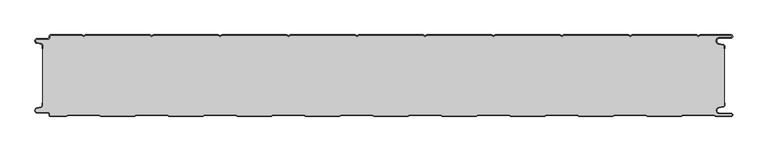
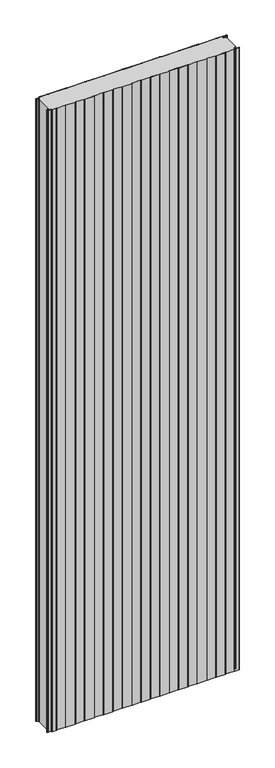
"""IFC4 building model written with IfcOpenShell, lengths in millimetres: plate geometry, PMH_Curtain-PaneL-Standard : ACH_PMH_Stone-wool-Panel_120M."""

from ifc_helpers import new_model, si_unit, point, frame_2d, origin, origin_with_axes, place, context, project, spatial, polyline, circle_curve, trimmed, segment, composite_curve, outline, extrude, source, transform, mapped, element, save


def plate_37207b8e(model_context):
    return source(origin(), model_context, "Body", "SweptSolid", [
        extrude(outline(composite_curve([segment(trimmed(circle_curve(frame_2d((-502.0, -15.878557)), 2.0), [point((-500.0, -15.878557))], [point((-501.5500978, -13.9298169))], True, "CARTESIAN"), True, "CONTINUOUS"), segment(polyline([(-501.5500978, -13.9298169), (-507.7098239, -12.507732)]), True, "CONTINUOUS"), segment(trimmed(circle_curve(frame_2d((-506.9, -9.0)), 3.6), [point((-507.7098239, -12.507732))], [point((-506.9, -5.4))], False, "CARTESIAN"), True, "CONTINUOUS"), segment(polyline([(-506.9, -5.4), (-491.4, -5.4)]), True, "CONTINUOUS"), segment(trimmed(circle_curve(frame_2d((-491.4, -3.4)), 2.0), [point((-491.4, -5.4))], [point((-489.4, -3.4))], True, "CARTESIAN"), True, "CONTINUOUS"), segment(polyline([(-489.4, -3.4), (-489.4, -2.0)]), True, "CONTINUOUS"), segment(trimmed(circle_curve(frame_2d((-487.4, -2.0)), 2.0), [point((-489.4, -2.0))], [point((-487.4, 0.0))], False, "CARTESIAN"), True, "CONTINUOUS"), segment(polyline([(-487.4, 0.0), (-442.0999995, 0.0), (-439.4, -1.5588455), (-436.7000005, 0.0), (-342.0999995, 0.0), (-339.4, -1.5588455), (-336.7000005, 0.0), (-242.0999995, 0.0), (-239.4, -1.5588455), (-236.7000005, 0.0), (-142.0999995, 0.0), (-139.4, -1.5588455), (-136.7000005, 0.0), (-42.0999995, 0.0), (-39.4, -1.5588455), (-36.7000005, 0.0), (57.9000005, 0.0), (60.6, -1.5588455), (63.2999995, 0.0), (157.9000005, 0.0), (160.6, -1.5588455), (163.2999995, 0.0), (257.9000005, 0.0), (260.6, -1.5588455), (263.2999995, 0.0), (357.9000005, 0.0), (360.6, -1.5588455), (363.2999995, 0.0), (457.9000005, 0.0), (460.6, -1.5588455), (463.2999995, 0.0), (508.1, 0.0)]), True, "CONTINUOUS"), segment(trimmed(circle_curve(frame_2d((508.1, -2.5)), 2.5), [point((508.1, 0.0))], [point((508.1, -5.0))], False, "CARTESIAN"), True, "CONTINUOUS"), segment(polyline([(508.1, -5.0), (491.1, -5.0)]), True, "CONTINUOUS"), segment(trimmed(circle_curve(frame_2d((491.1, -9.0)), 4.0), [point((491.1, -5.0))], [point((490.405407, -12.939231))], True, "CARTESIAN"), True, "CONTINUOUS"), segment(polyline([(490.405407, -12.939231), (496.8514855, -14.0758491)]), True, "CONTINUOUS"), segment(trimmed(circle_curve(frame_2d((496.4, -16.6363492)), 2.6), [point((496.8514855, -14.0758491))], [point((499.0, -16.6363492))], False, "CARTESIAN"), True, "CONTINUOUS"), segment(polyline([(499.0, -16.6363492), (499.0, -20.0), (498.2, -20.0), (498.2, -16.6363492)]), True, "CONTINUOUS"), segment(trimmed(circle_curve(frame_2d((496.4, -16.6363492)), 1.8), [point((498.2, -16.6363492))], [point((496.7125669, -14.8636953))], True, "CARTESIAN"), True, "CONTINUOUS"), segment(polyline([(496.7125669, -14.8636953), (490.2664884, -13.7270772)]), True, "CONTINUOUS"), segment(trimmed(circle_curve(frame_2d((491.1, -9.0)), 4.8), [point((490.2664884, -13.7270772))], [point((491.1, -4.2))], False, "CARTESIAN"), True, "CONTINUOUS"), segment(polyline([(491.1, -4.2), (508.1, -4.2)]), True, "CONTINUOUS"), segment(trimmed(circle_curve(frame_2d((508.1, -2.5)), 1.7), [point((508.1, -4.2))], [point((508.1, -0.8))], True, "CARTESIAN"), True, "CONTINUOUS"), segment(polyline([(508.1, -0.8), (463.5143588, -0.8), (460.6, -2.482606), (457.6856412, -0.8), (363.5143588, -0.8), (360.6, -2.482606), (357.6856412, -0.8), (263.5143588, -0.8), (260.6, -2.482606), (257.6856412, -0.8), (163.5143588, -0.8), (160.6, -2.482606), (157.6856412, -0.8), (63.5143588, -0.8), (60.6, -2.482606), (57.6856412, -0.8), (-36.4856412, -0.8), (-39.4, -2.482606), (-42.3143588, -0.8), (-136.4856412, -0.8), (-139.4, -2.482606), (-142.3143588, -0.8), (-236.4856412, -0.8), (-239.4, -2.482606), (-242.3143588, -0.8), (-336.4856412, -0.8), (-339.4, -2.482606), (-342.3143588, -0.8), (-436.4856412, -0.8), (-439.4, -2.482606), (-442.3143588, -0.8), (-487.4, -0.8)]), True, "CONTINUOUS"), segment(trimmed(circle_curve(frame_2d((-487.4, -2.0)), 1.2), [point((-487.4, -0.8))], [point((-488.6, -2.0))], True, "CARTESIAN"), True, "CONTINUOUS"), segment(polyline([(-488.6, -2.0), (-488.6, -3.4)]), True, "CONTINUOUS"), segment(trimmed(circle_curve(frame_2d((-491.4, -3.4)), 2.8), [point((-488.6, -3.4))], [point((-491.4, -6.2))], False, "CARTESIAN"), True, "CONTINUOUS"), segment(polyline([(-491.4, -6.2), (-506.9, -6.2)]), True, "CONTINUOUS"), segment(trimmed(circle_curve(frame_2d((-506.9, -9.0)), 2.8), [point((-506.9, -6.2))], [point((-507.529863, -11.7282362))], True, "CARTESIAN"), True, "CONTINUOUS"), segment(polyline([(-507.529863, -11.7282362), (-501.370137, -13.150321)]), True, "CONTINUOUS"), segment(trimmed(circle_curve(frame_2d((-502.0, -15.878557)), 2.8), [point((-501.370137, -13.150321))], [point((-499.2, -15.878557))], False, "CARTESIAN"), True, "CONTINUOUS"), segment(polyline([(-499.2, -15.878557), (-499.2, -20.0), (-500.0, -20.0), (-500.0, -15.878557)]), True, "CONTINUOUS")], self_intersect=False)), origin_with_axes(), (0.0, 0.0, 1.0), 3500.0),
        extrude(outline(composite_curve([segment(polyline([(-499.2, -104.121443), (-499.2, -15.8785573)]), True, "CONTINUOUS"), segment(trimmed(circle_curve(frame_2d((-502.0, -15.8785573)), 2.8), [point((-499.2, -15.8785573))], [point((-501.370137, -13.1503212))], True, "CARTESIAN"), True, "CONTINUOUS"), segment(polyline([(-501.370137, -13.1503212), (-507.5298631, -11.7282362)]), True, "CONTINUOUS"), segment(trimmed(circle_curve(frame_2d((-506.9, -9.0)), 2.8), [point((-507.5298631, -11.7282362))], [point((-506.9, -6.2))], False, "CARTESIAN"), True, "CONTINUOUS"), segment(polyline([(-506.9, -6.2), (-491.4000001, -6.2)]), True, "CONTINUOUS"), segment(trimmed(circle_curve(frame_2d((-491.4000001, -3.4)), 2.8), [point((-491.4000001, -6.2))], [point((-488.6000001, -3.4))], True, "CARTESIAN"), True, "CONTINUOUS"), segment(polyline([(-488.6000001, -3.4), (-488.6000001, -2.0)]), True, "CONTINUOUS"), segment(trimmed(circle_curve(frame_2d((-487.4000001, -2.0)), 1.2), [point((-488.6000001, -2.0))], [point((-487.4000001, -0.8))], False, "CARTESIAN"), True, "CONTINUOUS"), segment(polyline([(-487.4000001, -0.8), (-442.3143589, -0.8), (-439.4000001, -2.482606), (-436.4856412, -0.8), (-342.3143589, -0.8), (-339.4000001, -2.482606), (-336.4856412, -0.8), (-242.3143589, -0.8), (-239.4000001, -2.482606), (-236.4856412, -0.8), (-142.3143589, -0.8), (-139.4000001, -2.482606), (-136.4856412, -0.8), (-42.3143589, -0.8), (-39.4000001, -2.482606), (-36.4856412, -0.8), (57.6856411, -0.8), (60.5999999, -2.482606), (63.5143588, -0.8), (157.6856411, -0.8), (160.5999999, -2.482606), (163.5143588, -0.8), (257.6856411, -0.8), (260.5999999, -2.482606), (263.5143588, -0.8), (357.6856411, -0.8), (360.5999999, -2.482606), (363.5143588, -0.8), (457.6856411, -0.8), (460.5999999, -2.482606), (463.5143587, -0.8), (508.1, -0.8)]), True, "CONTINUOUS"), segment(trimmed(circle_curve(frame_2d((508.1, -2.5)), 1.7), [point((508.1, -0.8))], [point((508.1, -4.2))], False, "CARTESIAN"), True, "CONTINUOUS"), segment(polyline([(508.1, -4.2), (491.1, -4.2)]), True, "CONTINUOUS"), segment(trimmed(circle_curve(frame_2d((491.1, -9.0)), 4.8), [point((491.1, -4.2))], [point((490.2664883, -13.7270771))], True, "CARTESIAN"), True, "CONTINUOUS"), segment(polyline([(490.2664883, -13.7270771), (496.7125668, -14.8636953)]), True, "CONTINUOUS"), segment(trimmed(circle_curve(frame_2d((496.4, -16.6363492)), 1.8), [point((496.7125668, -14.8636953))], [point((498.2, -16.6363492))], False, "CARTESIAN"), True, "CONTINUOUS"), segment(polyline([(498.2, -16.6363492), (498.2, -103.363652)]), True, "CONTINUOUS"), segment(trimmed(circle_curve(frame_2d((496.4, -103.363652)), 1.8), [point((498.2, -103.363652))], [point((496.7125666, -105.1363059))], False, "CARTESIAN"), True, "CONTINUOUS"), segment(polyline([(496.7125666, -105.1363059), (490.266489, -106.272923)]), True, "CONTINUOUS"), segment(trimmed(circle_curve(frame_2d((491.1, -111.0000002)), 4.7999999), [point((490.266489, -106.272923))], [point((491.1, -115.8000001))], True, "CARTESIAN"), True, "CONTINUOUS"), segment(polyline([(491.1, -115.8000001), (508.1, -115.8000001)]), True, "CONTINUOUS"), segment(trimmed(circle_curve(frame_2d((508.1, -117.5)), 1.7), [point((508.1, -115.8000001))], [point((508.1, -119.2))], False, "CARTESIAN"), True, "CONTINUOUS"), segment(polyline([(508.1, -119.2), (485.8105122, -119.2), (483.2124346, -117.7), (437.9837184, -117.7), (435.3856408, -119.2), (385.8105122, -119.2), (383.2124346, -117.7), (337.9837184, -117.7), (335.3856408, -119.2), (285.8105122, -119.2), (283.2124346, -117.7), (237.9837184, -117.7), (235.3856408, -119.2), (185.8105122, -119.2), (183.2124346, -117.7), (137.9837184, -117.7), (135.3856408, -119.2), (85.8105122, -119.2), (83.2124346, -117.7), (37.9837184, -117.7), (35.3856408, -119.2), (-14.1894878, -119.2), (-16.7875654, -117.7), (-62.0162816, -117.7), (-64.6143592, -119.2), (-114.1894878, -119.2), (-116.7875654, -117.7), (-162.0162816, -117.7), (-164.6143592, -119.2), (-214.1894878, -119.2), (-216.7875654, -117.7), (-262.0162816, -117.7), (-264.6143592, -119.2), (-314.1894878, -119.2), (-316.7875654, -117.7), (-362.0162816, -117.7), (-364.6143592, -119.2), (-414.1894878, -119.2), (-416.7875654, -117.7), (-462.0162816, -117.7), (-464.6143592, -119.2), (-487.4, -119.2)]), True, "CONTINUOUS"), segment(trimmed(circle_curve(frame_2d((-487.4, -118.0)), 1.2), [point((-487.4, -119.2))], [point((-488.6, -118.0))], False, "CARTESIAN"), True, "CONTINUOUS"), segment(polyline([(-488.6, -118.0), (-488.6, -116.5999998)]), True, "CONTINUOUS"), segment(trimmed(circle_curve(frame_2d((-491.4, -116.5999998)), 2.8), [point((-488.6, -116.5999998))], [point((-491.4, -113.7999998))], True, "CARTESIAN"), True, "CONTINUOUS"), segment(polyline([(-491.4, -113.7999998), (-506.9, -113.7999998)]), True, "CONTINUOUS"), segment(trimmed(circle_curve(frame_2d((-506.9, -111.0)), 2.7999998), [point((-506.9, -113.7999998))], [point((-507.529863, -108.271764))], False, "CARTESIAN"), True, "CONTINUOUS"), segment(polyline([(-507.529863, -108.271764), (-501.370137, -106.8496792)]), True, "CONTINUOUS"), segment(trimmed(circle_curve(frame_2d((-502.0, -104.121443)), 2.8), [point((-501.370137, -106.8496792))], [point((-499.2, -104.121443))], True, "CARTESIAN"), True, "CONTINUOUS")], self_intersect=False)), origin_with_axes(), (0.0, 0.0, 1.0), 3500.0),
        extrude(outline(composite_curve([segment(trimmed(circle_curve(frame_2d((-487.4, -118.0)), 2.0), [point((-487.4, -120.0))], [point((-489.4, -118.0))], False, "CARTESIAN"), True, "CONTINUOUS"), segment(polyline([(-489.4, -118.0), (-489.4, -116.6)]), True, "CONTINUOUS"), segment(trimmed(circle_curve(frame_2d((-491.4, -116.6)), 2.0), [point((-489.4, -116.6))], [point((-491.4, -114.6))], True, "CARTESIAN"), True, "CONTINUOUS"), segment(polyline([(-491.4, -114.6), (-506.9, -114.6)]), True, "CONTINUOUS"), segment(trimmed(circle_curve(frame_2d((-506.9, -111.0)), 3.6), [point((-506.9, -114.6))], [point((-507.7098239, -107.4922678))], False, "CARTESIAN"), True, "CONTINUOUS"), segment(polyline([(-507.7098239, -107.4922678), (-501.5500979, -106.070183)]), True, "CONTINUOUS"), segment(trimmed(circle_curve(frame_2d((-502.0, -104.121443)), 2.0), [point((-501.5500979, -106.070183))], [point((-500.0, -104.121443))], True, "CARTESIAN"), True, "CONTINUOUS"), segment(polyline([(-500.0, -104.121443), (-500.0, -100.0), (-499.2, -100.0), (-499.2, -104.121443)]), True, "CONTINUOUS"), segment(trimmed(circle_curve(frame_2d((-502.0, -104.121443)), 2.8), [point((-499.2, -104.121443))], [point((-501.370137, -106.8496792))], False, "CARTESIAN"), True, "CONTINUOUS"), segment(polyline([(-501.370137, -106.8496792), (-507.529863, -108.271764)]), True, "CONTINUOUS"), segment(trimmed(circle_curve(frame_2d((-506.9, -111.0)), 2.8), [point((-507.529863, -108.271764))], [point((-506.9, -113.8))], True, "CARTESIAN"), True, "CONTINUOUS"), segment(polyline([(-506.9, -113.8), (-491.4, -113.8)]), True, "CONTINUOUS"), segment(trimmed(circle_curve(frame_2d((-491.4, -116.6)), 2.8), [point((-491.4, -113.8))], [point((-488.6, -116.6))], False, "CARTESIAN"), True, "CONTINUOUS"), segment(polyline([(-488.6, -116.6), (-488.6, -118.0)]), True, "CONTINUOUS"), segment(trimmed(circle_curve(frame_2d((-487.4, -118.0)), 1.2), [point((-488.6, -118.0))], [point((-487.4, -119.2))], True, "CARTESIAN"), True, "CONTINUOUS"), segment(polyline([(-487.4, -119.2), (-464.6143592, -119.2), (-462.0162816, -117.7), (-416.7875654, -117.7), (-414.1894878, -119.2), (-364.6143592, -119.2), (-362.0162816, -117.7), (-316.7875654, -117.7), (-314.1894878, -119.2), (-264.6143592, -119.2), (-262.0162816, -117.7), (-216.7875654, -117.7), (-214.1894878, -119.2), (-164.6143592, -119.2), (-162.0162816, -117.7), (-116.7875654, -117.7), (-114.1894878, -119.2), (-64.6143592, -119.2), (-62.0162816, -117.7), (-16.7875654, -117.7), (-14.1894878, -119.2), (35.3856408, -119.2), (37.9837184, -117.7), (83.2124346, -117.7), (85.8105122, -119.2), (135.3856408, -119.2), (137.9837184, -117.7), (183.2124346, -117.7), (185.8105122, -119.2), (235.3856408, -119.2), (237.9837184, -117.7), (283.2124346, -117.7), (285.8105122, -119.2), (335.3856408, -119.2), (337.9837184, -117.7), (383.2124346, -117.7), (385.8105122, -119.2), (435.3856408, -119.2), (437.9837184, -117.7), (483.2124346, -117.7), (485.8105122, -119.2), (508.1, -119.2)]), True, "CONTINUOUS"), segment(trimmed(circle_curve(frame_2d((508.1, -117.5)), 1.7), [point((508.1, -119.2))], [point((508.1, -115.8))], True, "CARTESIAN"), True, "CONTINUOUS"), segment(polyline([(508.1, -115.8), (491.1, -115.8)]), True, "CONTINUOUS"), segment(trimmed(circle_curve(frame_2d((491.1, -111.0)), 4.8), [point((491.1, -115.8))], [point((490.266489, -106.2729227))], False, "CARTESIAN"), True, "CONTINUOUS"), segment(polyline([(490.266489, -106.2729227), (496.7125666, -105.1363058)]), True, "CONTINUOUS"), segment(trimmed(circle_curve(frame_2d((496.4, -103.363652)), 1.8), [point((496.7125666, -105.1363058))], [point((498.2, -103.363652))], True, "CARTESIAN"), True, "CONTINUOUS"), segment(polyline([(498.2, -103.363652), (498.2, -100.0), (499.0, -100.0), (499.0, -103.363652)]), True, "CONTINUOUS"), segment(trimmed(circle_curve(frame_2d((496.4, -103.363652)), 2.6), [point((499.0, -103.363652))], [point((496.8514851, -105.9241522))], False, "CARTESIAN"), True, "CONTINUOUS"), segment(polyline([(496.8514851, -105.9241522), (490.4054075, -107.0607691)]), True, "CONTINUOUS"), segment(trimmed(circle_curve(frame_2d((491.1, -111.0)), 4.0), [point((490.4054075, -107.0607691))], [point((491.1, -115.0))], True, "CARTESIAN"), True, "CONTINUOUS"), segment(polyline([(491.1, -115.0), (508.1, -115.0)]), True, "CONTINUOUS"), segment(trimmed(circle_curve(frame_2d((508.1, -117.5)), 2.5), [point((508.1, -115.0))], [point((508.1, -120.0))], False, "CARTESIAN"), True, "CONTINUOUS"), segment(polyline([(508.1, -120.0), (485.5961529, -120.0), (482.9980753, -118.5), (438.1980777, -118.5), (435.6000001, -120.0), (385.5961529, -120.0), (382.9980753, -118.5), (338.1980777, -118.5), (335.6000001, -120.0), (285.5961529, -120.0), (282.9980753, -118.5), (238.1980777, -118.5), (235.6000001, -120.0), (185.5961529, -120.0), (182.9980753, -118.5), (138.1980777, -118.5), (135.6000001, -120.0), (85.5961529, -120.0), (82.9980753, -118.5), (38.1980777, -118.5), (35.6000001, -120.0), (-14.4038471, -120.0), (-17.0019247, -118.5), (-61.8019223, -118.5), (-64.3999999, -120.0), (-114.4038471, -120.0), (-117.0019247, -118.5), (-161.8019223, -118.5), (-164.3999999, -120.0), (-214.4038471, -120.0), (-217.0019247, -118.5), (-261.8019223, -118.5), (-264.3999999, -120.0), (-314.4038471, -120.0), (-317.0019247, -118.5), (-361.8019223, -118.5), (-364.3999999, -120.0), (-414.4038471, -120.0), (-417.0019247, -118.5), (-461.8019223, -118.5), (-464.3999999, -120.0), (-487.4, -120.0)]), True, "CONTINUOUS")], self_intersect=False)), origin_with_axes(), (0.0, 0.0, 1.0), 3500.0),
    ])


if __name__ == "__main__":
    model = new_model("IFC4")
    model_context = context("Model", 3, world=origin())
    ifc_project = project(units=[si_unit("LENGTHUNIT", "METRE", prefix="MILLI")], contexts=[model_context])
    site = spatial("IfcSite", under=ifc_project)
    building = spatial("IfcBuilding", under=site)
    placement = place(None, origin())
    plate_shape = plate_37207b8e(model_context)
    element("IfcPlate", 1, ObjectType="PMH_Curtain-PaneL-Standard : ACH_PMH_Stone-wool-Panel_120M", at=placement, inside=building, context=model_context, shape_type="MappedRepresentation", body=[
        mapped(plate_shape, transform((0.0, 0.0, 0.0), x_axis=(1.0, 0.0, 0.0), y_axis=(0.0, 1.0, 0.0), z_axis=(0.0, 0.0, 1.0))),
    ])
    save(model, "model.ifc")
